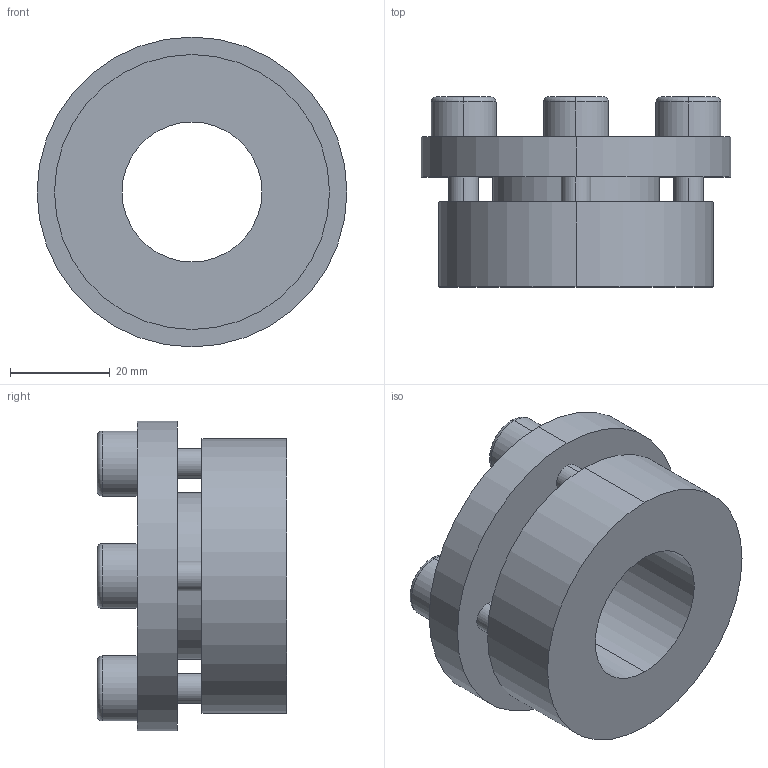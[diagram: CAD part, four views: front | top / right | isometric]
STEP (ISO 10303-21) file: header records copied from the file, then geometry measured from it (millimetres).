
FILE_DESCRIPTION (( 'STEP AP203' ), '1' );
FILE_NAME ('PL-H4 28-55.STEP', '2021-10-23T01:19:01', ( '' ), ( '' ), 'SwSTEP 2.0', 'SolidWorks 2018', '' );
FILE_SCHEMA (( 'CONFIG_CONTROL_DESIGN' ));
Length unit declared in the file: millimetre
Products named in the file (1): PL-H4 28-55
Bounding box: 62 x 38 x 62 mm (x, y, z)
Volume: 54730.1 mm3; surface area: 17183.5 mm2
Topology: 1 solids, 1 shells, 68 faces, 160 edges, 104 vertices
Faces by surface type: plane 36, cylinder 24, torus 8
Entity records: 2061 total; most frequent: DIRECTION 362, CARTESIAN_POINT 333, ORIENTED_EDGE 320, EDGE_CURVE 160, AXIS2_PLACEMENT_3D 133, VERTEX_POINT 104, LINE 96, VECTOR 96
